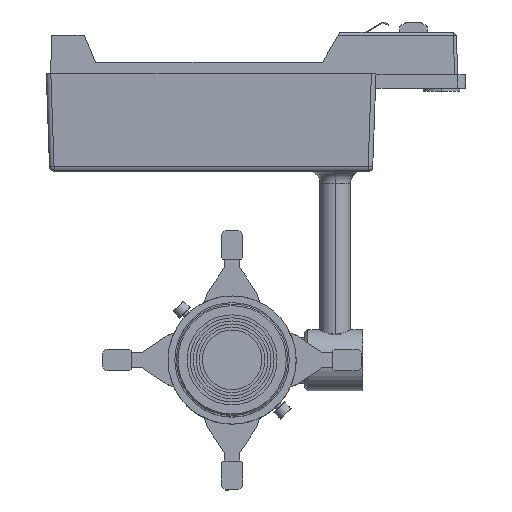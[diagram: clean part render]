
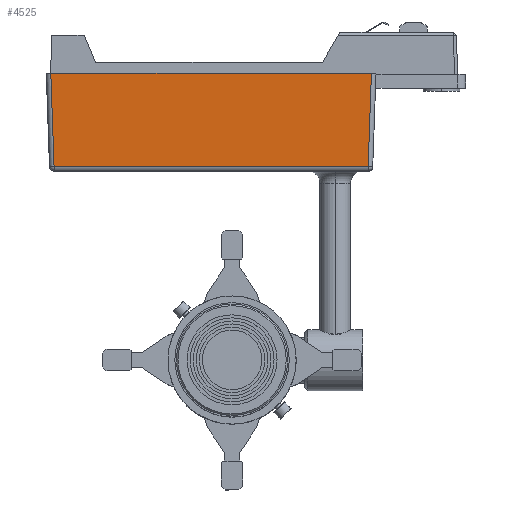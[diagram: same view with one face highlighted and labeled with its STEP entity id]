
A CAD part, top view. The second image highlights one B-rep face of the part: STEP entity #4525.
In plain terms, the highlighted planar face has unit normal (0, -0.035, 0.999).
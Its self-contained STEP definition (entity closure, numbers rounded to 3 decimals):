
#82 = DIRECTION ( 'NONE',  ( 1., 0., 0. ) ) ;
#322 = DIRECTION ( 'NONE',  ( 0.035, 0.999, 0.035 ) ) ;
#453 = ORIENTED_EDGE ( 'NONE', *, *, #4022, .F. ) ;
#848 = CARTESIAN_POINT ( 'NONE',  ( -158.9, 188., 28.385 ) ) ;
#1363 = ORIENTED_EDGE ( 'NONE', *, *, #8068, .T. ) ;
#1514 = DIRECTION ( 'NONE',  ( 1., 0., 0. ) ) ;
#1536 = CARTESIAN_POINT ( 'NONE',  ( -156.003, 126.895, 26.251 ) ) ;
#1827 = PLANE ( 'NONE',  #3751 ) ;
#1992 = EDGE_LOOP ( 'NONE', ( #453, #1363, #10219, #6331 ) ) ;
#2110 = LINE ( 'NONE', #848, #4250 ) ;
#2207 = LINE ( 'NONE', #6344, #8880 ) ;
#2566 = DIRECTION ( 'NONE',  ( 0., -0.035, 0.999 ) ) ;
#2597 = CARTESIAN_POINT ( 'NONE',  ( -158.9, 124., 26.15 ) ) ;
#3037 = LINE ( 'NONE', #3541, #5204 ) ;
#3423 = VERTEX_POINT ( 'NONE', #4289 ) ;
#3541 = CARTESIAN_POINT ( 'NONE',  ( -155.905, 124.104, 26.154 ) ) ;
#3578 = DIRECTION ( 'NONE',  ( 0.035, -0.999, -0.035 ) ) ;
#3588 = LINE ( 'NONE', #6771, #5258 ) ;
#3751 = AXIS2_PLACEMENT_3D ( 'NONE', #2597, #2566, #6704 ) ;
#3867 = CARTESIAN_POINT ( 'NONE',  ( -158.137, 188., 28.385 ) ) ;
#4022 = EDGE_CURVE ( 'NONE', #8257, #9239, #2110, .T. ) ;
#4250 = VECTOR ( 'NONE', #82, 1000. ) ;
#4289 = CARTESIAN_POINT ( 'NONE',  ( 49.903, 126.895, 26.251 ) ) ;
#4525 = ADVANCED_FACE ( 'NONE', ( #9848 ), #1827, .T. ) ;
#5049 = CARTESIAN_POINT ( 'NONE',  ( 52.037, 188., 28.385 ) ) ;
#5204 = VECTOR ( 'NONE', #3578, 1000. ) ;
#5258 = VECTOR ( 'NONE', #322, 1000. ) ;
#5896 = EDGE_CURVE ( 'NONE', #3423, #9239, #3588, .T. ) ;
#6241 = EDGE_CURVE ( 'NONE', #7755, #3423, #2207, .T. ) ;
#6331 = ORIENTED_EDGE ( 'NONE', *, *, #5896, .T. ) ;
#6344 = CARTESIAN_POINT ( 'NONE',  ( -158.9, 126.895, 26.251 ) ) ;
#6704 = DIRECTION ( 'NONE',  ( 0., -0.999, -0.035 ) ) ;
#6771 = CARTESIAN_POINT ( 'NONE',  ( 49.548, 116.73, 25.896 ) ) ;
#7755 = VERTEX_POINT ( 'NONE', #1536 ) ;
#8068 = EDGE_CURVE ( 'NONE', #8257, #7755, #3037, .T. ) ;
#8257 = VERTEX_POINT ( 'NONE', #3867 ) ;
#8880 = VECTOR ( 'NONE', #1514, 1000. ) ;
#9239 = VERTEX_POINT ( 'NONE', #5049 ) ;
#9848 = FACE_OUTER_BOUND ( 'NONE', #1992, .T. ) ;
#10219 = ORIENTED_EDGE ( 'NONE', *, *, #6241, .T. ) ;
